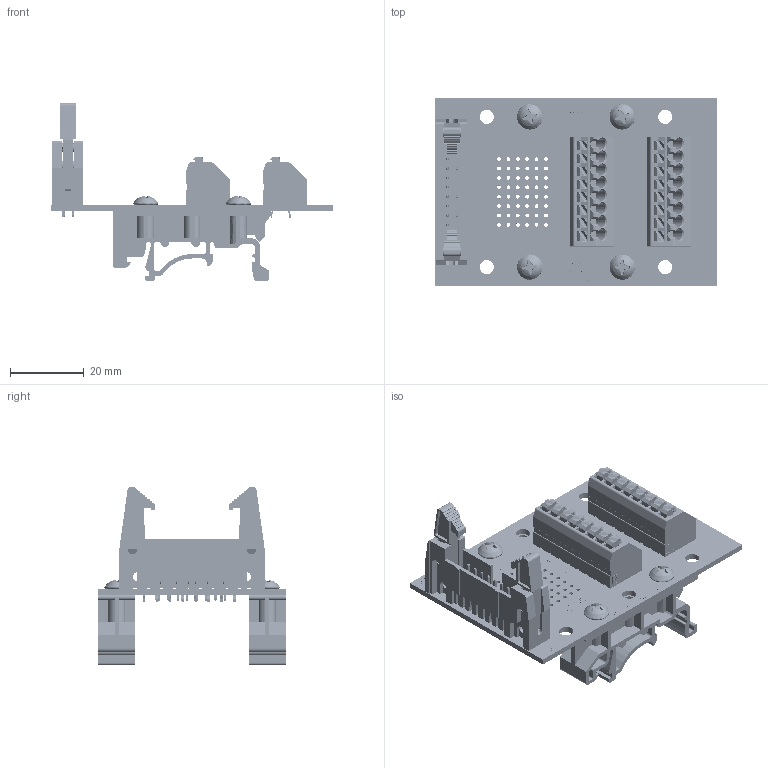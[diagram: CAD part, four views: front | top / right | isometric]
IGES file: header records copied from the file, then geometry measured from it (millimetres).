
Start section: SolidWorks IGES file using analytic representation for surfaces
Global section: file name: C:\Users\Jonny\Documents\Winford Engineering Jobs\BRKG2X\BRKG2X8\brkg2x8-l-din_rev_a.igs; native system: SolidWorks 2017; preprocessor: SolidWorks 2017; author: Jonny; date: 181216.205644; units: inch
Bounding box: 76.2 x 50.8 x 48.17 mm (x, y, z)
Surface area: 27454.4 mm2 (no closed solid volume)
Topology: 0 solids, 0 shells, 4109 faces, 30693 edges, 30693 vertices
Faces by surface type: bspline 2949, revolution 1160
